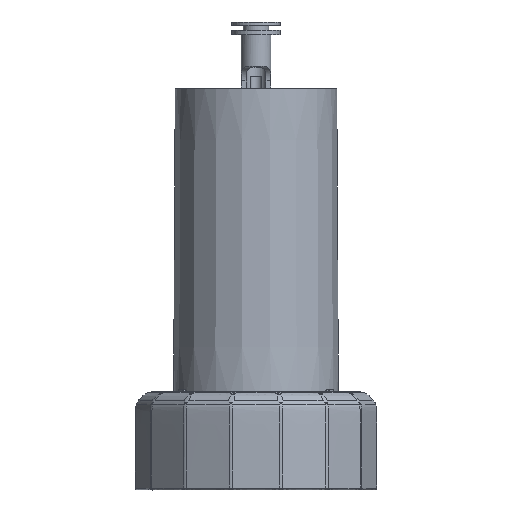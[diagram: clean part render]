
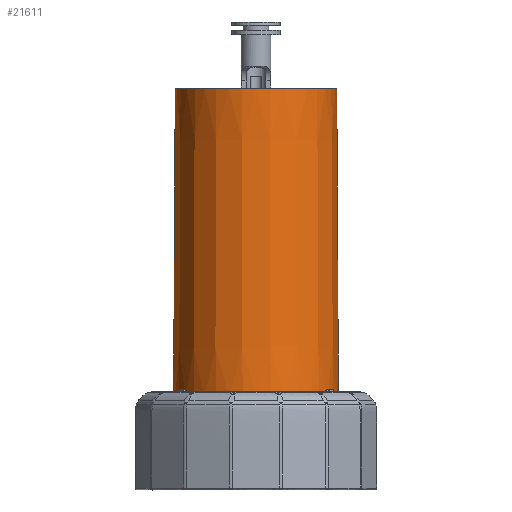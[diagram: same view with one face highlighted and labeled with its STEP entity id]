
A CAD part, left-side view. The second image highlights one B-rep face of the part: STEP entity #21611.
In plain terms, the highlighted conical face has half-angle 0.3 degrees and reference radius 42 mm.
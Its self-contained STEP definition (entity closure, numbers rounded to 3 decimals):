
#424=CONICAL_SURFACE('',#23076,42.,0.005);
#1637=B_SPLINE_CURVE_WITH_KNOTS('',3,(#83194,#83195,#83196,#83197,#83198,
#83199),.UNSPECIFIED.,.F.,.F.,(4,2,4),(0.076,0.081,
0.152),.UNSPECIFIED.);
#1638=B_SPLINE_CURVE_WITH_KNOTS('',3,(#83206,#83207,#83208,#83209,#83210,
#83211,#83212,#83213,#83214,#83215,#83216,#83217,#83218,#83219),
 .UNSPECIFIED.,.F.,.F.,(4,2,2,2,2,2,4),(0.,0.,
0.,0.,0.001,0.003,
0.006),.UNSPECIFIED.);
#1639=B_SPLINE_CURVE_WITH_KNOTS('',3,(#83222,#83223,#83224,#83225,#83226,
#83227),.UNSPECIFIED.,.F.,.F.,(4,2,4),(0.076,0.081,
0.152),.UNSPECIFIED.);
#3034=FACE_OUTER_BOUND('',#4313,.T.);
#4313=EDGE_LOOP('',(#15539,#15540,#15541,#15542,#15543,#15544,#15545,#15546,
#15547,#15548));
#5630=LINE('',#83201,#6609);
#5631=LINE('',#83202,#6610);
#5632=LINE('',#83204,#6611);
#5633=LINE('',#83221,#6612);
#6609=VECTOR('',#25542,10.);
#6610=VECTOR('',#25543,10.);
#6611=VECTOR('',#25544,1000.);
#6612=VECTOR('',#25545,10.);
#7352=CIRCLE('',#23035,41.869);
#7354=CIRCLE('',#23037,41.869);
#7376=CIRCLE('',#23077,41.046);
#8801=VERTEX_POINT('',#82290);
#8802=VERTEX_POINT('',#82291);
#8804=VERTEX_POINT('',#82295);
#8843=VERTEX_POINT('',#83190);
#8844=VERTEX_POINT('',#83191);
#8845=VERTEX_POINT('',#83193);
#8846=VERTEX_POINT('',#83200);
#8847=VERTEX_POINT('',#83203);
#8848=VERTEX_POINT('',#83205);
#8849=VERTEX_POINT('',#83220);
#11365=EDGE_CURVE('',#8801,#8802,#7352,.T.);
#11368=EDGE_CURVE('',#8802,#8804,#7354,.T.);
#11427=EDGE_CURVE('',#8843,#8844,#7376,.T.);
#11428=EDGE_CURVE('',#8843,#8845,#1637,.T.);
#11429=EDGE_CURVE('',#8845,#8846,#5630,.T.);
#11430=EDGE_CURVE('',#8846,#8801,#5631,.T.);
#11431=EDGE_CURVE('',#8847,#8804,#5632,.T.);
#11432=EDGE_CURVE('',#8847,#8848,#1638,.T.);
#11433=EDGE_CURVE('',#8848,#8849,#5633,.T.);
#11434=EDGE_CURVE('',#8844,#8849,#1639,.T.);
#15539=ORIENTED_EDGE('',*,*,#11427,.F.);
#15540=ORIENTED_EDGE('',*,*,#11428,.T.);
#15541=ORIENTED_EDGE('',*,*,#11429,.T.);
#15542=ORIENTED_EDGE('',*,*,#11430,.T.);
#15543=ORIENTED_EDGE('',*,*,#11365,.T.);
#15544=ORIENTED_EDGE('',*,*,#11368,.T.);
#15545=ORIENTED_EDGE('',*,*,#11431,.F.);
#15546=ORIENTED_EDGE('',*,*,#11432,.T.);
#15547=ORIENTED_EDGE('',*,*,#11433,.T.);
#15548=ORIENTED_EDGE('',*,*,#11434,.F.);
#21611=ADVANCED_FACE('',(#3034),#424,.T.);
#23035=AXIS2_PLACEMENT_3D('',#82292,#25451,#25452);
#23037=AXIS2_PLACEMENT_3D('',#82300,#25455,#25456);
#23076=AXIS2_PLACEMENT_3D('',#83189,#25538,#25539);
#23077=AXIS2_PLACEMENT_3D('',#83192,#25540,#25541);
#25451=DIRECTION('center_axis',(0.,0.,
1.));
#25452=DIRECTION('ref_axis',(-1.,0.,0.));
#25455=DIRECTION('center_axis',(0.,0.,
1.));
#25456=DIRECTION('ref_axis',(-1.,0.,0.));
#25538=DIRECTION('center_axis',(0.,0.,
-1.));
#25539=DIRECTION('ref_axis',(0.,1.,0.));
#25540=DIRECTION('center_axis',(0.,0.,
1.));
#25541=DIRECTION('ref_axis',(1.,0.,0.));
#25542=DIRECTION('',(0.,-0.005,-1.));
#25543=DIRECTION('',(0.,-0.005,-1.));
#25544=DIRECTION('',(0.,-0.005,-1.));
#25545=DIRECTION('',(0.,0.005,1.));
#82290=CARTESIAN_POINT('',(35.424,-288.404,112.896));
#82291=CARTESIAN_POINT('',(-15.445,-247.514,112.895));
#82292=CARTESIAN_POINT('Origin',(26.424,-247.514,112.895));
#82295=CARTESIAN_POINT('',(17.424,-288.404,112.896));
#82300=CARTESIAN_POINT('Origin',(26.424,-247.514,112.895));
#83189=CARTESIAN_POINT('Origin',(26.424,-247.514,87.934));
#83190=CARTESIAN_POINT('',(35.424,-287.561,270.187));
#83191=CARTESIAN_POINT('',(17.424,-287.561,270.187));
#83192=CARTESIAN_POINT('Origin',(26.424,-247.514,270.187));
#83193=CARTESIAN_POINT('',(35.424,-287.968,194.187));
#83194=CARTESIAN_POINT('Ctrl Pts',(35.424,-287.561,270.187));
#83195=CARTESIAN_POINT('Ctrl Pts',(35.424,-287.569,268.579));
#83196=CARTESIAN_POINT('Ctrl Pts',(35.424,-287.578,266.972));
#83197=CARTESIAN_POINT('Ctrl Pts',(35.424,-287.714,241.638));
#83198=CARTESIAN_POINT('Ctrl Pts',(35.424,-287.841,217.912));
#83199=CARTESIAN_POINT('Ctrl Pts',(35.424,-287.968,194.187));
#83200=CARTESIAN_POINT('',(35.424,-288.372,118.866));
#83201=CARTESIAN_POINT('',(35.424,-287.968,194.187));
#83202=CARTESIAN_POINT('',(35.424,-288.372,118.866));
#83203=CARTESIAN_POINT('',(17.424,-288.404,112.917));
#83204=CARTESIAN_POINT('',(17.424,-287.968,194.187));
#83205=CARTESIAN_POINT('',(17.424,-288.372,118.866));
#83206=CARTESIAN_POINT('Ctrl Pts',(17.424,-288.404,112.917));
#83207=CARTESIAN_POINT('Ctrl Pts',(17.426,-288.404,112.979));
#83208=CARTESIAN_POINT('Ctrl Pts',(17.427,-288.404,113.041));
#83209=CARTESIAN_POINT('Ctrl Pts',(17.429,-288.404,113.165));
#83210=CARTESIAN_POINT('Ctrl Pts',(17.432,-288.404,113.227));
#83211=CARTESIAN_POINT('Ctrl Pts',(17.429,-288.402,113.413));
#83212=CARTESIAN_POINT('Ctrl Pts',(17.428,-288.402,113.537));
#83213=CARTESIAN_POINT('Ctrl Pts',(17.426,-288.399,113.908));
#83214=CARTESIAN_POINT('Ctrl Pts',(17.426,-288.398,114.156));
#83215=CARTESIAN_POINT('Ctrl Pts',(17.425,-288.394,114.9));
#83216=CARTESIAN_POINT('Ctrl Pts',(17.425,-288.391,115.396));
#83217=CARTESIAN_POINT('Ctrl Pts',(17.425,-288.383,116.883));
#83218=CARTESIAN_POINT('Ctrl Pts',(17.424,-288.378,117.875));
#83219=CARTESIAN_POINT('Ctrl Pts',(17.424,-288.372,118.866));
#83220=CARTESIAN_POINT('',(17.424,-287.968,194.187));
#83221=CARTESIAN_POINT('',(17.424,-288.372,118.866));
#83222=CARTESIAN_POINT('Ctrl Pts',(17.424,-287.561,270.187));
#83223=CARTESIAN_POINT('Ctrl Pts',(17.424,-287.569,268.579));
#83224=CARTESIAN_POINT('Ctrl Pts',(17.424,-287.578,266.972));
#83225=CARTESIAN_POINT('Ctrl Pts',(17.424,-287.714,241.638));
#83226=CARTESIAN_POINT('Ctrl Pts',(17.424,-287.841,217.912));
#83227=CARTESIAN_POINT('Ctrl Pts',(17.424,-287.968,194.187));
